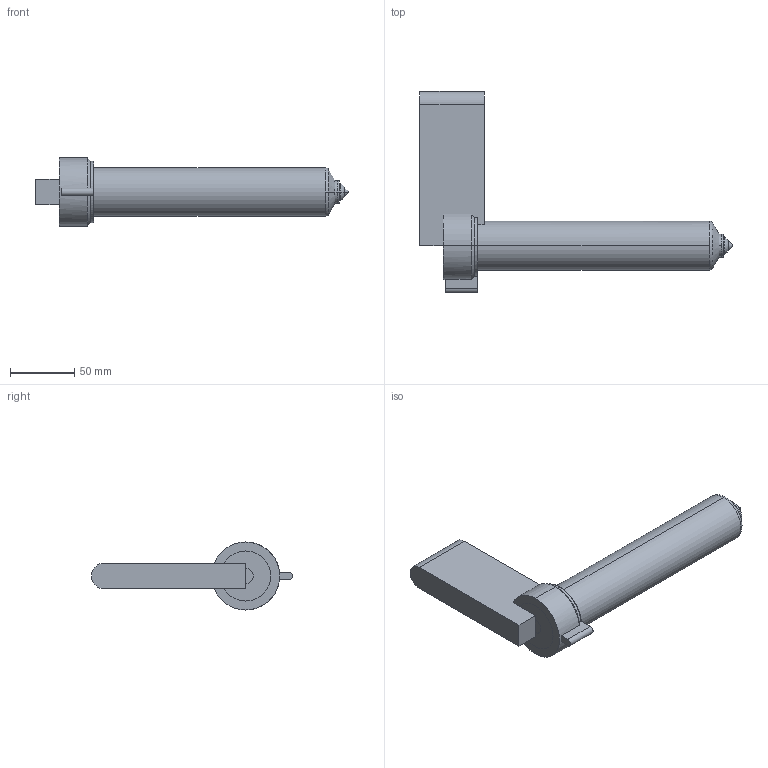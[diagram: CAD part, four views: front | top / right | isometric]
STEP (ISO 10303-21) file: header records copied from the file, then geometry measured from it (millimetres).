
FILE_DESCRIPTION (( 'STEP AP214' ), '1' );
FILE_NAME ('PRS25-223CC-1.5.STEP', '2021-05-26T10:10:31', ( '' ), ( '' ), 'SwSTEP 2.0', 'SolidWorks 2018', '' );
FILE_SCHEMA (( 'AUTOMOTIVE_DESIGN' ));
Length unit declared in the file: millimetre
Products named in the file (5): join^PRS-NOZZLE-16; CC(25)-16; BODY SPRING(25-SPRING)-16; PRS-NOZZLE(PRS25)-16; PRS25-223CC-1.5
Assembly tree (4 placements, depth 2):
  PRS25-223CC-1.5
    PRS-NOZZLE(PRS25)-16
    BODY SPRING(25-SPRING)-16
    CC(25)-16
    join^PRS-NOZZLE-16
Bounding box: 243 x 156.5 x 53 mm (x, y, z)
Volume: 576370.2 mm3; surface area: 85269.9 mm2
Topology: 4 solids, 4 shells, 219 faces, 519 edges, 319 vertices
Faces by surface type: cylinder 89, cone 57, plane 40, torus 29, sphere 4
Entity records: 6720 total; most frequent: CARTESIAN_POINT 1290, DIRECTION 1228, ORIENTED_EDGE 1038, AXIS2_PLACEMENT_3D 525, EDGE_CURVE 519, VERTEX_POINT 319, CIRCLE 299, EDGE_LOOP 238
